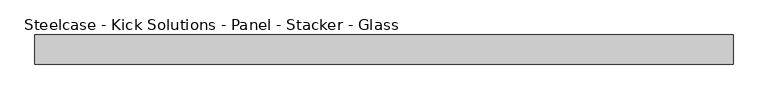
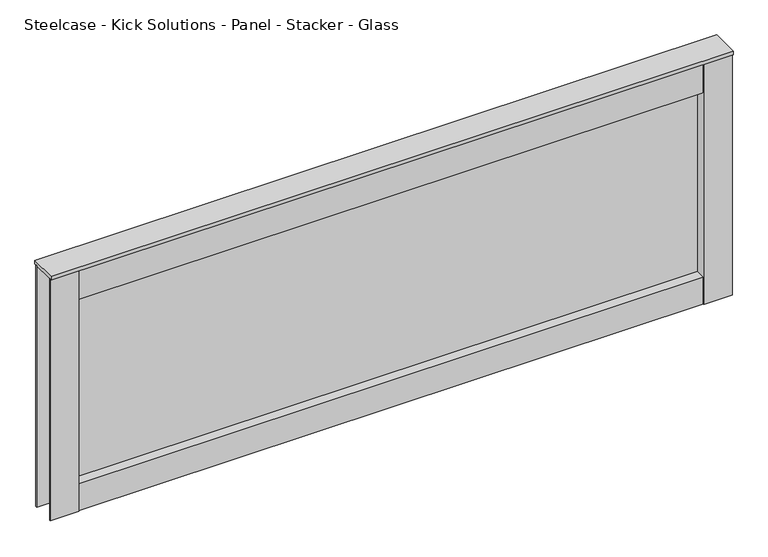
"""IFC4 building model written with IfcOpenShell, lengths in millimetres: furniture geometry, Steelcase - Kick Solutions - Panel - Stacker - Glass : 18H x 48W."""

from ifc_helpers import new_model, si_unit, frame, origin, place, context, project, spatial, polyline, outline, extrude, source, transform, mapped, element, save


def steelcase_kick_solutions_panel_stacker_glass_d53e94bb(model_context):
    return source(origin(), model_context, "Body", "SweptSolid", [
        extrude(outline(polyline([(1168.4006661, -5.08), (1168.4006661, -45.7200015), (50.8006646, -45.7200015), (50.8006646, -5.08), (1168.4006661, -5.08)])), frame((0.0, 0.0, 1066.8), z_axis=(0.0, 0.0, 1.0), x_axis=(1.0, 0.0, 0.0)), (0.0, 0.0, 1.0), 50.6830951),
        extrude(outline(polyline([(1168.4006661, -5.08), (1168.4006661, -45.7200015), (50.8006646, -45.7200015), (50.8006646, -5.08), (1168.4006661, -5.08)])), frame((0.0, 0.0, 1466.85), z_axis=(0.0, 0.0, 1.0), x_axis=(1.0, 0.0, 0.0)), (0.0, 0.0, 1.0), 57.15),
        extrude(outline(polyline([(50.8006646, -3.1743148), (50.8006646, -47.6243142), (0.0, -47.6243142), (0.0, -45.7200015), (47.7526646, -45.7200015), (47.7526646, -5.08), (0.0, -5.08), (0.0, -3.1743148), (50.8006646, -3.1743148)])), frame((0.0, 0.0, 1066.8), z_axis=(0.0, 0.0, 1.0), x_axis=(1.0, 0.0, 0.0)), (0.0, 0.0, 1.0), 457.2),
        extrude(outline(polyline([(1168.4006661, -3.1743148), (1219.2, -3.1743148), (1219.2, -5.08), (1171.4486661, -5.08), (1171.4486661, -45.7200015), (1219.2, -45.7200015), (1219.2, -47.6243142), (1168.4006661, -47.6243142), (1168.4006661, -3.1743148)])), frame((0.0, 0.0, 1066.8), z_axis=(0.0, 0.0, 1.0), x_axis=(1.0, 0.0, 0.0)), (0.0, 0.0, 1.0), 457.2),
        extrude(outline(polyline([(1168.4006661, -28.422537), (50.8006646, -28.422537), (50.8006646, -25.4), (1168.4006661, -25.4), (1168.4006661, -28.422537)])), frame((0.0, 0.0, 1117.4830951), z_axis=(0.0, 0.0, 1.0), x_axis=(1.0, 0.0, 0.0)), (0.0, 0.0, 1.0), 349.3669049),
        extrude(outline(polyline([(1219.2, 0.0), (1219.2, -50.8000015), (0.0, -50.8000015), (0.0, 0.0), (1219.2, 0.0)])), frame((0.0, 0.0, 1524.0), z_axis=(0.0, 0.0, 1.0), x_axis=(1.0, 0.0, 0.0)), (0.0, 0.0, 1.0), 6.35),
    ])


if __name__ == "__main__":
    model = new_model("IFC4")
    model_context = context("Model", 3, world=origin())
    ifc_project = project(units=[si_unit("LENGTHUNIT", "METRE", prefix="MILLI")], contexts=[model_context])
    site = spatial("IfcSite", under=ifc_project)
    building = spatial("IfcBuilding", under=site)
    placement = place(None, origin())
    steelcase_kick_solutions_panel_stacker_glass_shape = steelcase_kick_solutions_panel_stacker_glass_d53e94bb(model_context)
    element("IfcFurniture", 1, ObjectType="Steelcase - Kick Solutions - Panel - Stacker - Glass : 18H x 48W", at=placement, inside=building, context=model_context, shape_type="MappedRepresentation", body=[
        mapped(steelcase_kick_solutions_panel_stacker_glass_shape, transform((0.0, 0.0, 0.0), x_axis=(1.0, 0.0, 0.0), y_axis=(0.0, 1.0, 0.0), z_axis=(0.0, 0.0, 1.0))),
    ])
    save(model, "model.ifc")
